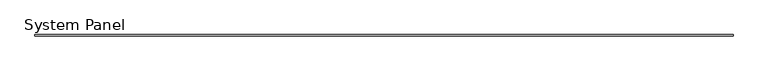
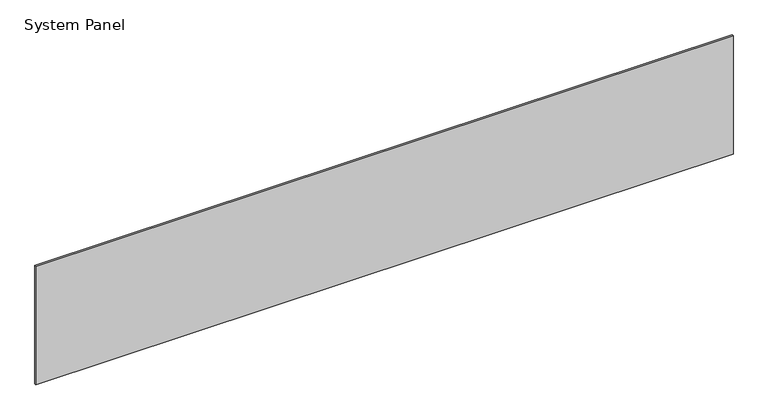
"""IFC4 building model written with IfcOpenShell, lengths in millimetres: plate geometry, System Panel : MALLA ACMA."""

from ifc_helpers import new_model, si_unit, origin, origin_with_axes, place, context, project, spatial, polyline, outline, extrude, source, transform, mapped, element, save


def system_panel_8750a649(model_context):
    return source(origin(), model_context, "Body", "SweptSolid", [
        extrude(outline(polyline([(2615.2061228, -5.0), (-2615.2061228, -5.0), (-2615.2061228, 5.0), (2615.2061228, 5.0), (2615.2061228, -5.0)])), origin_with_axes(), (0.0, 0.0, 1.0), 940.0),
    ])


if __name__ == "__main__":
    model = new_model("IFC4")
    model_context = context("Model", 3, world=origin())
    ifc_project = project(units=[si_unit("LENGTHUNIT", "METRE", prefix="MILLI")], contexts=[model_context])
    site = spatial("IfcSite", under=ifc_project)
    building = spatial("IfcBuilding", under=site)
    placement = place(None, origin())
    system_panel_shape = system_panel_8750a649(model_context)
    element("IfcPlate", 1, ObjectType="System Panel : MALLA ACMA", at=placement, inside=building, context=model_context, shape_type="MappedRepresentation", body=[
        mapped(system_panel_shape, transform((0.0, 0.0, 0.0), x_axis=(1.0, 0.0, 0.0), y_axis=(0.0, 1.0, 0.0), z_axis=(0.0, 0.0, 1.0))),
    ])
    save(model, "model.ifc")
